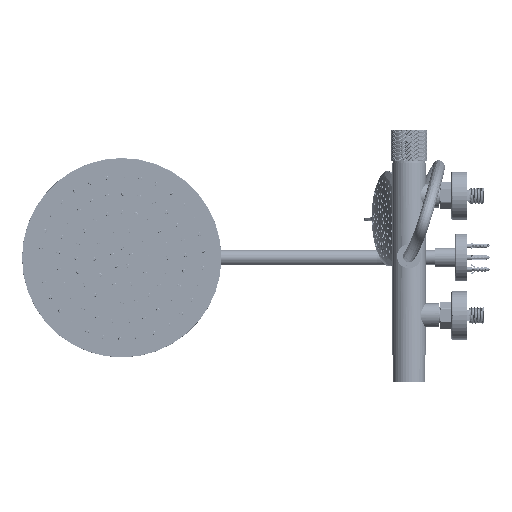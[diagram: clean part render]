
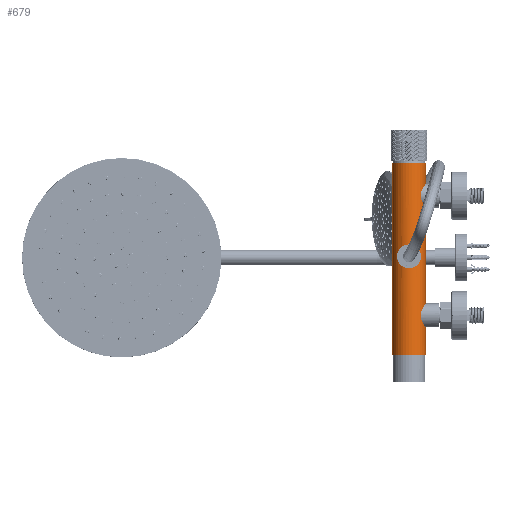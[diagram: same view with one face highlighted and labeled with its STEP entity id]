
A CAD part, top view. The second image highlights one B-rep face of the part: STEP entity #679.
In plain terms, the highlighted cylindrical face has radius 21 mm (diameter 42 mm), a partial arc.
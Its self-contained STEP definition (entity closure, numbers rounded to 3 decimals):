
#23=CARTESIAN_POINT('',(21.,55.,0.));
#25=DIRECTION('',(0.,-1.,0.));
#26=VECTOR('',#25,241.);
#27=CARTESIAN_POINT('',(-21.,241.5,0.));
#28=LINE('',#27,#26);
#108=CARTESIAN_POINT('',(0.,0.5,0.));
#109=DIRECTION('',(0.,1.,0.));
#110=DIRECTION('',(-1.,0.,0.));
#111=AXIS2_PLACEMENT_3D('',#108,#109,#110);
#123=DIRECTION('',(0.,-1.,0.));
#124=VECTOR('',#123,186.5);
#125=CARTESIAN_POINT('',(21.,241.5,0.));
#126=LINE('',#125,#124);
#127=CARTESIAN_POINT('',(21.,55.,0.));
#128=CARTESIAN_POINT('',(21.,55.,0.376));
#129=CARTESIAN_POINT('',(20.98,54.904,1.1));
#130=CARTESIAN_POINT('',(20.897,54.473,2.152));
#131=CARTESIAN_POINT('',(20.786,53.8,3.025));
#132=CARTESIAN_POINT('',(20.672,52.919,3.713));
#133=CARTESIAN_POINT('',(20.587,51.874,4.149));
#134=CARTESIAN_POINT('',(20.565,51.135,4.25));
#135=CARTESIAN_POINT('',(20.565,50.75,4.25));
#137=DIRECTION('',(0.,-1.,0.));
#138=VECTOR('',#137,1.5);
#139=CARTESIAN_POINT('',(20.565,50.75,4.25));
#140=LINE('',#139,#138);
#141=CARTESIAN_POINT('',(20.565,49.25,4.25));
#142=CARTESIAN_POINT('',(20.565,48.874,4.25));
#143=CARTESIAN_POINT('',(20.585,48.149,4.155));
#144=CARTESIAN_POINT('',(20.67,47.097,3.722));
#145=CARTESIAN_POINT('',(20.784,46.213,3.04));
#146=CARTESIAN_POINT('',(20.896,45.534,2.164));
#147=CARTESIAN_POINT('',(20.98,45.095,1.105));
#148=CARTESIAN_POINT('',(21.,45.,0.377));
#149=CARTESIAN_POINT('',(21.,45.,0.));
#151=DIRECTION('',(0.,-1.,0.));
#152=VECTOR('',#151,44.5);
#153=CARTESIAN_POINT('',(21.,45.,0.));
#154=LINE('',#153,#152);
#155=CARTESIAN_POINT('',(0.,133.1,21.));
#156=CARTESIAN_POINT('',(-0.6,133.1,21.));
#157=CARTESIAN_POINT('',(-1.828,132.992,20.953));
#158=CARTESIAN_POINT('',(-3.925,132.308,20.663));
#159=CARTESIAN_POINT('',(-5.704,131.191,20.234));
#160=CARTESIAN_POINT('',(-7.185,129.708,19.748));
#161=CARTESIAN_POINT('',(-8.253,128.009,19.318));
#162=CARTESIAN_POINT('',(-8.939,126.069,19.005));
#163=CARTESIAN_POINT('',(-9.17,124.09,18.892));
#164=CARTESIAN_POINT('',(-8.979,122.097,18.986));
#165=CARTESIAN_POINT('',(-8.302,120.084,19.297));
#166=CARTESIAN_POINT('',(-7.222,118.334,19.735));
#167=CARTESIAN_POINT('',(-5.726,116.824,20.228));
#168=CARTESIAN_POINT('',(-3.937,115.698,20.661));
#169=CARTESIAN_POINT('',(-1.851,115.012,20.951));
#170=CARTESIAN_POINT('',(-0.609,114.9,21.));
#171=CARTESIAN_POINT('',(0.,114.9,21.));
#173=CARTESIAN_POINT('',(0.,114.9,21.));
#174=CARTESIAN_POINT('',(0.601,114.9,21.));
#175=CARTESIAN_POINT('',(1.832,115.008,20.953));
#176=CARTESIAN_POINT('',(3.927,115.693,20.663));
#177=CARTESIAN_POINT('',(5.704,116.81,20.234));
#178=CARTESIAN_POINT('',(7.186,118.293,19.748));
#179=CARTESIAN_POINT('',(8.257,119.998,19.316));
#180=CARTESIAN_POINT('',(8.941,121.939,19.004));
#181=CARTESIAN_POINT('',(9.17,123.916,18.892));
#182=CARTESIAN_POINT('',(8.977,125.91,18.986));
#183=CARTESIAN_POINT('',(8.301,127.917,19.297));
#184=CARTESIAN_POINT('',(7.222,129.666,19.735));
#185=CARTESIAN_POINT('',(5.725,131.176,20.228));
#186=CARTESIAN_POINT('',(3.937,132.302,20.661));
#187=CARTESIAN_POINT('',(1.848,132.988,20.951));
#188=CARTESIAN_POINT('',(0.608,133.1,21.));
#189=CARTESIAN_POINT('',(0.,133.1,21.));
#191=CARTESIAN_POINT('',(19.799,202.25,7.));
#192=CARTESIAN_POINT('',(19.649,202.25,7.425));
#193=CARTESIAN_POINT('',(19.33,202.132,8.243));
#194=CARTESIAN_POINT('',(18.76,201.549,9.465));
#195=CARTESIAN_POINT('',(18.244,200.638,10.413));
#196=CARTESIAN_POINT('',(17.882,199.554,11.014));
#197=CARTESIAN_POINT('',(17.715,198.438,11.277));
#198=CARTESIAN_POINT('',(17.737,197.326,11.243));
#199=CARTESIAN_POINT('',(17.928,196.282,10.939));
#200=CARTESIAN_POINT('',(18.282,195.289,10.345));
#201=CARTESIAN_POINT('',(18.774,194.438,9.435));
#202=CARTESIAN_POINT('',(19.325,193.874,8.254));
#203=CARTESIAN_POINT('',(19.646,193.75,7.432));
#204=CARTESIAN_POINT('',(19.799,193.75,7.));
#206=CARTESIAN_POINT('',(19.799,193.75,7.));
#207=CARTESIAN_POINT('',(19.951,193.75,6.571));
#208=CARTESIAN_POINT('',(20.209,193.876,5.754));
#209=CARTESIAN_POINT('',(20.491,194.397,4.637));
#210=CARTESIAN_POINT('',(20.673,195.206,3.722));
#211=CARTESIAN_POINT('',(20.776,196.237,3.07));
#212=CARTESIAN_POINT('',(20.821,197.41,2.733));
#213=CARTESIAN_POINT('',(20.821,198.628,2.738));
#214=CARTESIAN_POINT('',(20.774,199.8,3.087));
#215=CARTESIAN_POINT('',(20.668,200.82,3.745));
#216=CARTESIAN_POINT('',(20.487,201.611,4.653));
#217=CARTESIAN_POINT('',(20.208,202.124,5.757));
#218=CARTESIAN_POINT('',(19.95,202.25,6.572));
#219=CARTESIAN_POINT('',(19.799,202.25,7.));
#226=CARTESIAN_POINT('',(0.,241.5,0.));
#227=DIRECTION('',(0.,-1.,0.));
#228=DIRECTION('',(1.,0.,0.));
#229=AXIS2_PLACEMENT_3D('',#226,#227,#228);
#538=CARTESIAN_POINT('',(21.,0.5,0.));
#539=CARTESIAN_POINT('',(-21.,0.5,0.));
#540=VERTEX_POINT('',#538);
#541=VERTEX_POINT('',#539);
#542=CARTESIAN_POINT('',(21.,45.,0.));
#543=VERTEX_POINT('',#542);
#547=VERTEX_POINT('',#23);
#548=CARTESIAN_POINT('',(21.,241.5,0.));
#549=VERTEX_POINT('',#548);
#550=CARTESIAN_POINT('',(-21.,241.5,0.));
#551=VERTEX_POINT('',#550);
#570=VERTEX_POINT('',#141);
#573=VERTEX_POINT('',#135);
#574=VERTEX_POINT('',#155);
#575=VERTEX_POINT('',#171);
#576=VERTEX_POINT('',#191);
#577=VERTEX_POINT('',#204);
#648=CARTESIAN_POINT('',(0.,-12.1,0.));
#649=DIRECTION('',(0.,1.,0.));
#650=DIRECTION('',(1.,0.,0.));
#651=AXIS2_PLACEMENT_3D('',#648,#649,#650);
#652=CYLINDRICAL_SURFACE('',#651,21.);
#653=ORIENTED_EDGE('',*,*,#637,.F.);
#654=ORIENTED_EDGE('',*,*,#620,.F.);
#656=ORIENTED_EDGE('',*,*,#655,.F.);
#657=ORIENTED_EDGE('',*,*,#616,.T.);
#659=ORIENTED_EDGE('',*,*,#658,.T.);
#661=ORIENTED_EDGE('',*,*,#660,.T.);
#663=ORIENTED_EDGE('',*,*,#662,.T.);
#664=ORIENTED_EDGE('',*,*,#608,.T.);
#665=EDGE_LOOP('',(#653,#654,#656,#657,#659,#661,#663,#664));
#666=FACE_OUTER_BOUND('',#665,.F.);
#668=ORIENTED_EDGE('',*,*,#667,.T.);
#670=ORIENTED_EDGE('',*,*,#669,.T.);
#671=EDGE_LOOP('',(#668,#670));
#672=FACE_BOUND('',#671,.F.);
#674=ORIENTED_EDGE('',*,*,#673,.T.);
#676=ORIENTED_EDGE('',*,*,#675,.T.);
#677=EDGE_LOOP('',(#674,#676));
#678=FACE_BOUND('',#677,.F.);
#112=CIRCLE('',#111,21.);
#136=B_SPLINE_CURVE_WITH_KNOTS('',3,(#127,#128,#129,#130,#131,#132,#133,#134,
#135),.UNSPECIFIED.,.F.,.F.,(4,1,1,1,1,1,4),(0.,0.167,
0.333,0.5,0.667,0.833,1.),
.UNSPECIFIED.);
#150=B_SPLINE_CURVE_WITH_KNOTS('',3,(#141,#142,#143,#144,#145,#146,#147,#148,
#149),.UNSPECIFIED.,.F.,.F.,(4,1,1,1,1,1,4),(0.,0.167,
0.333,0.5,0.667,0.833,1.),
.UNSPECIFIED.);
#172=B_SPLINE_CURVE_WITH_KNOTS('',3,(#155,#156,#157,#158,#159,#160,#161,#162,
#163,#164,#165,#166,#167,#168,#169,#170,#171),.UNSPECIFIED.,.F.,.F.,(4,1,1,1,1,
1,1,1,1,1,1,1,1,1,4),(0.,0.071,0.143,
0.214,0.286,0.357,0.429,0.5,
0.571,0.643,0.714,0.786,
0.857,0.929,1.),.UNSPECIFIED.);
#190=B_SPLINE_CURVE_WITH_KNOTS('',3,(#173,#174,#175,#176,#177,#178,#179,#180,
#181,#182,#183,#184,#185,#186,#187,#188,#189),.UNSPECIFIED.,.F.,.F.,(4,1,1,1,1,
1,1,1,1,1,1,1,1,1,4),(0.,0.071,0.143,
0.214,0.286,0.357,0.429,0.5,
0.571,0.643,0.714,0.786,
0.857,0.929,1.),.UNSPECIFIED.);
#205=B_SPLINE_CURVE_WITH_KNOTS('',3,(#191,#192,#193,#194,#195,#196,#197,#198,
#199,#200,#201,#202,#203,#204),.UNSPECIFIED.,.F.,.F.,(4,1,1,1,1,1,1,1,1,1,1,4),(
0.,0.091,0.182,0.273,0.364,
0.455,0.545,0.636,0.727,
0.818,0.909,1.),.UNSPECIFIED.);
#220=B_SPLINE_CURVE_WITH_KNOTS('',3,(#206,#207,#208,#209,#210,#211,#212,#213,
#214,#215,#216,#217,#218,#219),.UNSPECIFIED.,.F.,.F.,(4,1,1,1,1,1,1,1,1,1,1,4),(
0.,0.091,0.182,0.273,0.364,
0.455,0.545,0.636,0.727,
0.818,0.909,1.),.UNSPECIFIED.);
#230=CIRCLE('',#229,21.);
#608=EDGE_CURVE('',#543,#540,#154,.T.);
#616=EDGE_CURVE('',#549,#547,#126,.T.);
#620=EDGE_CURVE('',#551,#541,#28,.T.);
#637=EDGE_CURVE('',#541,#540,#112,.T.);
#655=EDGE_CURVE('',#549,#551,#230,.T.);
#658=EDGE_CURVE('',#547,#573,#136,.T.);
#660=EDGE_CURVE('',#573,#570,#140,.T.);
#662=EDGE_CURVE('',#570,#543,#150,.T.);
#667=EDGE_CURVE('',#574,#575,#172,.T.);
#669=EDGE_CURVE('',#575,#574,#190,.T.);
#673=EDGE_CURVE('',#576,#577,#205,.T.);
#675=EDGE_CURVE('',#577,#576,#220,.T.);
#679=ADVANCED_FACE('',(#666,#672,#678),#652,.T.);
